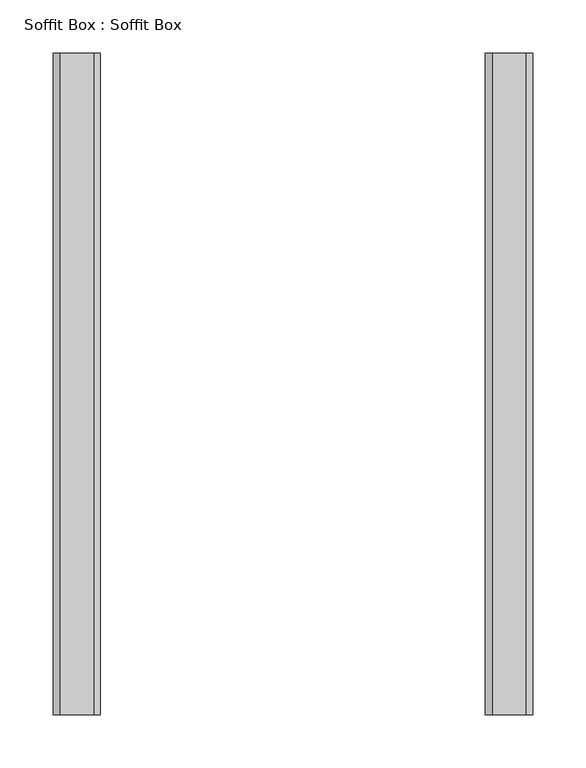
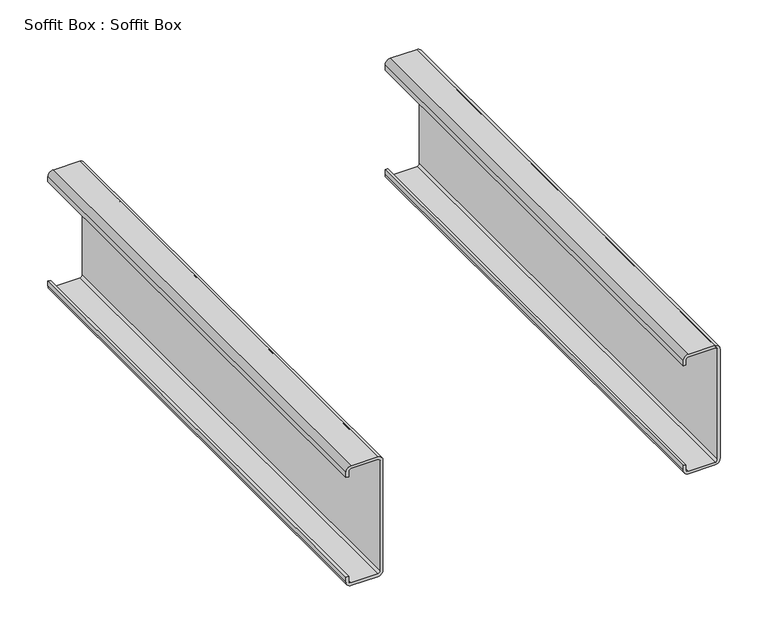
"""IFC4 building model written with IfcOpenShell, lengths in millimetres: proxy geometry, Soffit Box : Soffit Box."""

from ifc_helpers import new_model, si_unit, point, frame, frame_2d, origin, place, context, project, spatial, polyline, circle_curve, trimmed, segment, composite_curve, outline, extrude, source, transform, mapped, element, save


def soffit_box_soffit_box_3929802c(model_context):
    return source(origin(), model_context, "Body", "SweptSolid", [
        extrude(outline(composite_curve([segment(polyline([(149.225, 26489.1726773), (149.225, 26492.3526773), (155.9929713, 26492.3526773)]), True, "CONTINUOUS"), segment(trimmed(circle_curve(frame_2d((155.575, 26495.5226773)), 3.1974365), [point((155.9929713, 26492.3526773))], [point((158.745, 26495.104706))], True, "CARTESIAN"), True, "CONTINUOUS"), segment(polyline([(158.745, 26495.104706), (158.745, 26527.7406486)]), True, "CONTINUOUS"), segment(trimmed(circle_curve(frame_2d((155.575, 26527.3226773)), 3.1974365), [point((158.745, 26527.7406486))], [point((155.9929713, 26530.4926773))], True, "CARTESIAN"), True, "CONTINUOUS"), segment(polyline([(155.9929713, 26530.4926773), (15.4570287, 26530.4926773)]), True, "CONTINUOUS"), segment(trimmed(circle_curve(frame_2d((15.875, 26527.3226773)), 3.1974365), [point((15.4570287, 26530.4926773))], [point((12.705, 26527.7406486))], True, "CARTESIAN"), True, "CONTINUOUS"), segment(polyline([(12.705, 26527.7406486), (12.705, 26495.104706)]), True, "CONTINUOUS"), segment(trimmed(circle_curve(frame_2d((15.875, 26495.5226773)), 3.1974365), [point((12.705, 26495.104706))], [point((15.4570287, 26492.3526773))], True, "CARTESIAN"), True, "CONTINUOUS"), segment(polyline([(15.4570287, 26492.3526773), (22.225, 26492.3526773), (22.225, 26489.1726773), (15.875, 26489.1726773)]), True, "CONTINUOUS"), segment(trimmed(circle_curve(frame_2d((15.875, 26495.5226773)), 6.35), [point((15.875, 26489.1726773))], [point((9.525, 26495.5226773))], False, "CARTESIAN"), True, "CONTINUOUS"), segment(polyline([(9.525, 26495.5226773), (9.525, 26527.3226773)]), True, "CONTINUOUS"), segment(trimmed(circle_curve(frame_2d((15.875, 26527.3226773)), 6.35), [point((9.525, 26527.3226773))], [point((15.875, 26533.6726773))], False, "CARTESIAN"), True, "CONTINUOUS"), segment(polyline([(15.875, 26533.6726773), (155.575, 26533.6726773)]), True, "CONTINUOUS"), segment(trimmed(circle_curve(frame_2d((155.575, 26527.3226773)), 6.35), [point((155.575, 26533.6726773))], [point((161.925, 26527.3226773))], False, "CARTESIAN"), True, "CONTINUOUS"), segment(polyline([(161.925, 26527.3226773), (161.925, 26495.5226773)]), True, "CONTINUOUS"), segment(trimmed(circle_curve(frame_2d((155.575, 26495.5226773)), 6.35), [point((161.925, 26495.5226773))], [point((155.575, 26489.1726773))], False, "CARTESIAN"), True, "CONTINUOUS"), segment(polyline([(155.575, 26489.1726773), (149.225, 26489.1726773)]), True, "CONTINUOUS")], self_intersect=False)), frame((0.0, 802.2566297, 0.0), z_axis=(0.0, 1.0, 0.0), x_axis=(0.0, 0.0, 1.0)), (0.0, 0.0, 1.0), 622.3),
        extrude(outline(composite_curve([segment(polyline([(149.225, 26895.5726773), (149.225, 26898.7526773), (155.9929713, 26898.7526773)]), True, "CONTINUOUS"), segment(trimmed(circle_curve(frame_2d((155.575, 26901.9226773)), 3.1974365), [point((155.9929713, 26898.7526773))], [point((158.745, 26901.504706))], True, "CARTESIAN"), True, "CONTINUOUS"), segment(polyline([(158.745, 26901.504706), (158.745, 26934.1406486)]), True, "CONTINUOUS"), segment(trimmed(circle_curve(frame_2d((155.575, 26933.7226773)), 3.1974365), [point((158.745, 26934.1406486))], [point((155.9929713, 26936.8926773))], True, "CARTESIAN"), True, "CONTINUOUS"), segment(polyline([(155.9929713, 26936.8926773), (15.4570287, 26936.8926773)]), True, "CONTINUOUS"), segment(trimmed(circle_curve(frame_2d((15.875, 26933.7226773)), 3.1974365), [point((15.4570287, 26936.8926773))], [point((12.705, 26934.1406486))], True, "CARTESIAN"), True, "CONTINUOUS"), segment(polyline([(12.705, 26934.1406486), (12.705, 26901.504706)]), True, "CONTINUOUS"), segment(trimmed(circle_curve(frame_2d((15.875, 26901.9226773)), 3.1974365), [point((12.705, 26901.504706))], [point((15.4570287, 26898.7526773))], True, "CARTESIAN"), True, "CONTINUOUS"), segment(polyline([(15.4570287, 26898.7526773), (22.225, 26898.7526773), (22.225, 26895.5726773), (15.875, 26895.5726773)]), True, "CONTINUOUS"), segment(trimmed(circle_curve(frame_2d((15.875, 26901.9226773)), 6.35), [point((15.875, 26895.5726773))], [point((9.525, 26901.9226773))], False, "CARTESIAN"), True, "CONTINUOUS"), segment(polyline([(9.525, 26901.9226773), (9.525, 26933.7226773)]), True, "CONTINUOUS"), segment(trimmed(circle_curve(frame_2d((15.875, 26933.7226773)), 6.35), [point((9.525, 26933.7226773))], [point((15.875, 26940.0726773))], False, "CARTESIAN"), True, "CONTINUOUS"), segment(polyline([(15.875, 26940.0726773), (155.575, 26940.0726773)]), True, "CONTINUOUS"), segment(trimmed(circle_curve(frame_2d((155.575, 26933.7226773)), 6.35), [point((155.575, 26940.0726773))], [point((161.925, 26933.7226773))], False, "CARTESIAN"), True, "CONTINUOUS"), segment(polyline([(161.925, 26933.7226773), (161.925, 26901.9226773)]), True, "CONTINUOUS"), segment(trimmed(circle_curve(frame_2d((155.575, 26901.9226773)), 6.35), [point((161.925, 26901.9226773))], [point((155.575, 26895.5726773))], False, "CARTESIAN"), True, "CONTINUOUS"), segment(polyline([(155.575, 26895.5726773), (149.225, 26895.5726773)]), True, "CONTINUOUS")], self_intersect=False)), frame((0.0, 802.2566297, 0.0), z_axis=(0.0, 1.0, 0.0), x_axis=(0.0, 0.0, 1.0)), (0.0, 0.0, 1.0), 622.3),
    ])


if __name__ == "__main__":
    model = new_model("IFC4")
    model_context = context("Model", 3, world=origin())
    ifc_project = project(units=[si_unit("LENGTHUNIT", "METRE", prefix="MILLI")], contexts=[model_context])
    site = spatial("IfcSite", under=ifc_project)
    building = spatial("IfcBuilding", under=site)
    placement = place(None, origin())
    soffit_box_soffit_box_shape = soffit_box_soffit_box_3929802c(model_context)
    element("IfcBuildingElementProxy", 1, Name="Soffit Box : Soffit Box", ObjectType="Soffit Box : Soffit Box", at=placement, inside=building, context=model_context, shape_type="MappedRepresentation", body=[
        mapped(soffit_box_soffit_box_shape, transform((0.0, 0.0, 0.0), x_axis=(1.0, 0.0, 0.0), y_axis=(0.0, 1.0, 0.0), z_axis=(0.0, 0.0, 1.0))),
    ])
    save(model, "model.ifc")
